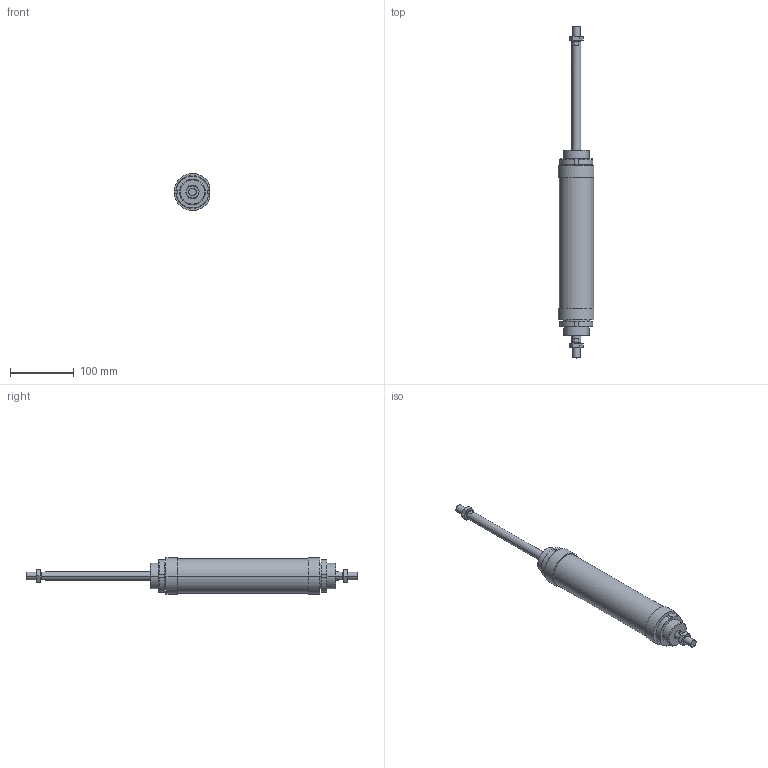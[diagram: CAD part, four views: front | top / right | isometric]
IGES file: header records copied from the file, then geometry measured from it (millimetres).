
Global section: file name: No Iges File Name specified; native system: AutoDesk Inventor R6.0; preprocessor: AutoDesk Inventor Iges Exporter R6.0; author: No Author specified; organization: No Organization specified; date: 20030403.073023; units: millimetre
Bounding box: 56.6 x 522 x 57.85 mm (x, y, z)
Volume: 678686.7 mm3; surface area: 100837 mm2
Topology: 6 solids, 6 shells, 182 faces, 424 edges, 264 vertices
Faces by surface type: plane 66, cone 52, bspline 30, cylinder 28, revolution 6
